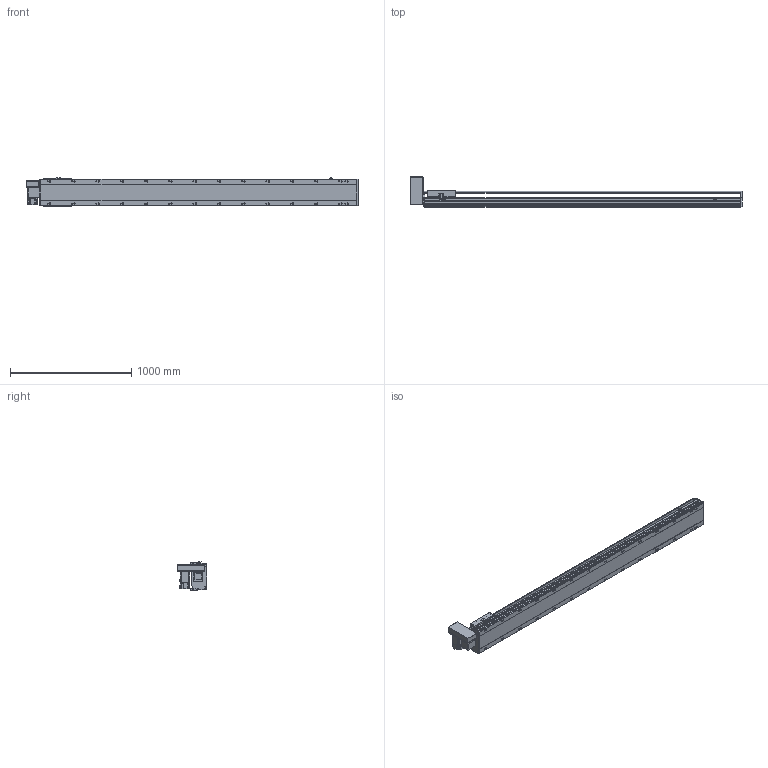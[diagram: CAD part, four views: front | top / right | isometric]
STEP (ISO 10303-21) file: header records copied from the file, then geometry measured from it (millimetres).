
FILE_DESCRIPTION(/* description */ ('STEP AP214'),/* implementation_level */ '2;1');
FILE_NAME(/* name */ 'PBS220-P40-S2250-RU-T75-C1-N(0)',/* time_stamp */ '2022-06-13T02:58:24+02:00',/* author */ ('License CC BY-ND 4.0'),/* organization */ ('CADENAS'),/* preprocessor_version */ 'ST-DEVELOPER v18.102',/* originating_system */ 'PARTsolutions',/* authorisation */ ' ');
FILE_SCHEMA (('AUTOMOTIVE_DESIGN {1 0 10303 214 3 1 1}'));
Length unit declared in the file: millimetre
Products named in the file (7): PBS220-P40-S2250-RU-T75-C1-N(0); PBS220_sensor; PBS220_plant; PBS220_sliser; T75-p1; PBS220T-RU_motors; PBS220-S2250()_body
Assembly tree (8 placements, depth 2):
  PBS220-P40-S2250-RU-T75-C1-N(0)
    PBS220_sensor  x3
    PBS220_plant
    PBS220_sliser
    T75-p1
    PBS220T-RU_motors
    PBS220-S2250()_body
Bounding box: 2734 x 247 x 238.5 mm (x, y, z)
Volume: 38285909 mm3; surface area: 3534697.6 mm2
Topology: 8 solids, 8 shells, 986 faces, 2564 edges, 1666 vertices
Faces by surface type: plane 622, cylinder 312, cone 52
Full cylindrical faces by diameter (mm): 2.013 x4, 4.5 x14, 4.917 x4, 6 x7, 6.647 x8, 8 x10, 8.376 x28, 8.5 x28, 10 x6, 14 x28, 38 x2, 40 x1, 70 x1
Entity records: 27501 total; most frequent: CARTESIAN_POINT 4888, DIRECTION 4779, ORIENTED_EDGE 4322, EDGE_CURVE 2161, AXIS2_PLACEMENT_3D 1711, VERTEX_POINT 1512, LINE 1357, VECTOR 1357
